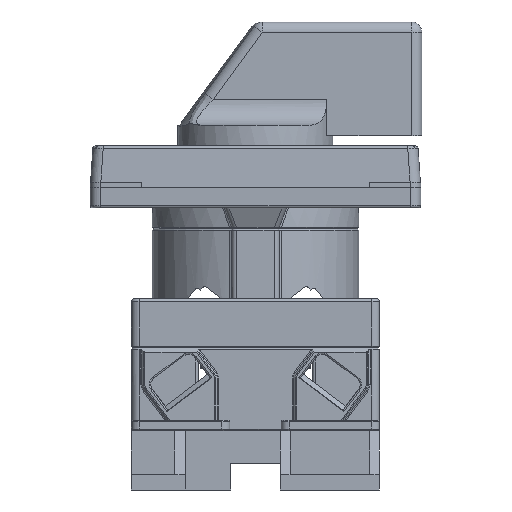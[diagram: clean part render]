
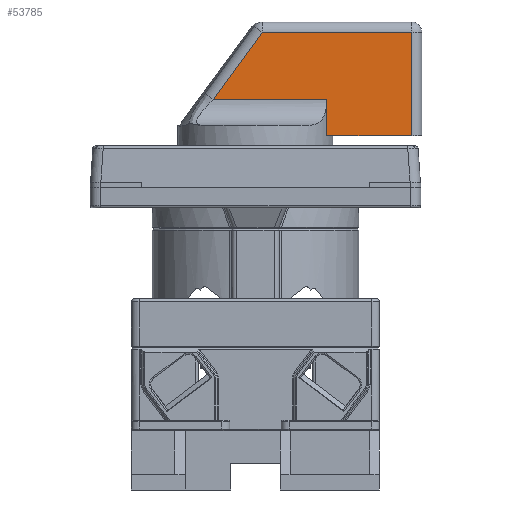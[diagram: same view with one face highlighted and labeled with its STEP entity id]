
A CAD part, front view. The second image highlights one B-rep face of the part: STEP entity #53785.
In plain terms, the highlighted planar face has unit normal (0, -1, 0).
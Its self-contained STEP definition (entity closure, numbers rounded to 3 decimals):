
#4272 = LINE ( 'NONE', #15519, #4285 ) ;
#4279 = LINE ( 'NONE', #15529, #4288 ) ;
#4285 = VECTOR ( 'NONE', #15539, 1000. ) ;
#4286 = LINE ( 'NONE', #15548, #4292 ) ;
#4288 = VECTOR ( 'NONE', #15544, 1000. ) ;
#4290 = LINE ( 'NONE', #15553, #4296 ) ;
#4292 = VECTOR ( 'NONE', #15551, 1000. ) ;
#4294 = LINE ( 'NONE', #15558, #4300 ) ;
#4296 = VECTOR ( 'NONE', #15556, 1000. ) ;
#4298 = LINE ( 'NONE', #15562, #4303 ) ;
#4300 = VECTOR ( 'NONE', #15561, 1000. ) ;
#4303 = VECTOR ( 'NONE', #15564, 1000. ) ;
#15519 = CARTESIAN_POINT ( 'NONE',  ( 0.814, -5.9, 22. ) ) ;
#15529 = CARTESIAN_POINT ( 'NONE',  ( -2.977, -5.9, 16.103 ) ) ;
#15539 = DIRECTION ( 'NONE',  ( -1., 0., 0. ) ) ;
#15544 = DIRECTION ( 'NONE',  ( -0.59, 0., -0.808 ) ) ;
#15548 = CARTESIAN_POINT ( 'NONE',  ( 13.791, -5.9, 9. ) ) ;
#15551 = DIRECTION ( 'NONE',  ( 1., 0., 0. ) ) ;
#15553 = CARTESIAN_POINT ( 'NONE',  ( 13.791, -5.9, 4. ) ) ;
#15556 = DIRECTION ( 'NONE',  ( 0., 0., 1. ) ) ;
#15558 = CARTESIAN_POINT ( 'NONE',  ( 32.209, -5.9, 2. ) ) ;
#15561 = DIRECTION ( 'NONE',  ( -1., 0., 0. ) ) ;
#15562 = CARTESIAN_POINT ( 'NONE',  ( 30.209, -5.9, 24. ) ) ;
#15564 = DIRECTION ( 'NONE',  ( 0., 0., 1. ) ) ;
#21491 = CARTESIAN_POINT ( 'NONE',  ( 30.209, -5.9, 22. ) ) ;
#21578 = CARTESIAN_POINT ( 'NONE',  ( -8.164, -5.9, 9. ) ) ;
#21612 = CARTESIAN_POINT ( 'NONE',  ( 1.329, -5.9, 22. ) ) ;
#22002 = CARTESIAN_POINT ( 'NONE',  ( 13.791, -5.9, 2. ) ) ;
#22030 = CARTESIAN_POINT ( 'NONE',  ( 13.791, -5.9, 9. ) ) ;
#22058 = CARTESIAN_POINT ( 'NONE',  ( 30.209, -5.9, 2. ) ) ;
#32886 = ORIENTED_EDGE ( 'NONE', *, *, #72728, .T. ) ;
#32888 = ORIENTED_EDGE ( 'NONE', *, *, #72729, .T. ) ;
#32890 = ORIENTED_EDGE ( 'NONE', *, *, #72730, .T. ) ;
#32892 = ORIENTED_EDGE ( 'NONE', *, *, #72731, .F. ) ;
#32893 = ORIENTED_EDGE ( 'NONE', *, *, #72732, .F. ) ;
#32895 = ORIENTED_EDGE ( 'NONE', *, *, #72733, .T. ) ;
#33775 = EDGE_LOOP ( 'NONE', ( #32886, #32888, #32890, #32892, #32893, #32895 ) ) ;
#47331 = FACE_OUTER_BOUND ( 'NONE', #33775, .T. ) ;
#53785 = ADVANCED_FACE ( 'NONE', ( #47331 ), #60198, .T. ) ;
#54732 = AXIS2_PLACEMENT_3D ( 'NONE', #60183, #60202, #60203 ) ;
#60183 = CARTESIAN_POINT ( 'NONE',  ( -13.791, -5.9, 24. ) ) ;
#60198 = PLANE ( 'NONE',  #54732 ) ;
#60202 = DIRECTION ( 'NONE',  ( 0., -1., 0. ) ) ;
#60203 = DIRECTION ( 'NONE',  ( 1., 0., 0. ) ) ;
#72728 = EDGE_CURVE ( 'NONE', #82210, #82343, #4272, .T. ) ;
#72729 = EDGE_CURVE ( 'NONE', #82343, #82310, #4279, .T. ) ;
#72730 = EDGE_CURVE ( 'NONE', #82310, #82577, #4286, .T. ) ;
#72731 = EDGE_CURVE ( 'NONE', #82563, #82577, #4290, .T. ) ;
#72732 = EDGE_CURVE ( 'NONE', #82591, #82563, #4294, .T. ) ;
#72733 = EDGE_CURVE ( 'NONE', #82591, #82210, #4298, .T. ) ;
#82210 = VERTEX_POINT ( 'NONE', #21491 ) ;
#82310 = VERTEX_POINT ( 'NONE', #21578 ) ;
#82343 = VERTEX_POINT ( 'NONE', #21612 ) ;
#82563 = VERTEX_POINT ( 'NONE', #22002 ) ;
#82577 = VERTEX_POINT ( 'NONE', #22030 ) ;
#82591 = VERTEX_POINT ( 'NONE', #22058 ) ;
